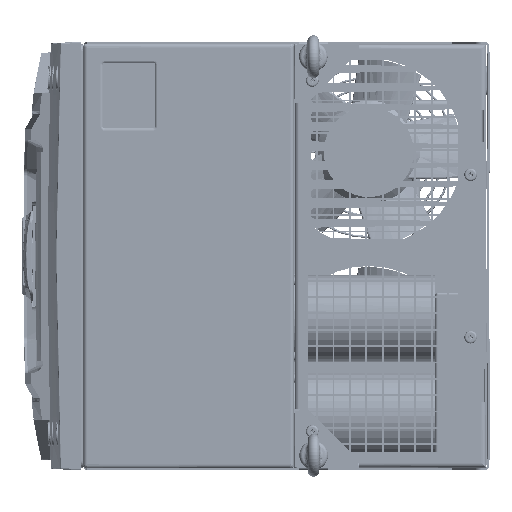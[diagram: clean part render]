
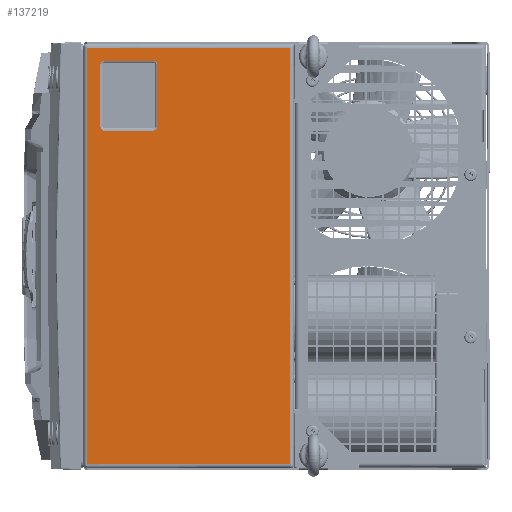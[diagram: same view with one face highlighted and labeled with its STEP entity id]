
A CAD part, left-side view. The second image highlights one B-rep face of the part: STEP entity #137219.
In plain terms, the highlighted planar face has unit normal (-1, 0, 0).
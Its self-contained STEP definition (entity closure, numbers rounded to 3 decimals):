
#2947 = VERTEX_POINT ( 'NONE', #296068 ) ;
#3064 = LINE ( 'NONE', #24934, #151939 ) ;
#9158 = LINE ( 'NONE', #240673, #128663 ) ;
#9941 = VERTEX_POINT ( 'NONE', #292766 ) ;
#12964 = CARTESIAN_POINT ( 'NONE',  ( -608.5, 258.25, 150.328 ) ) ;
#17301 = CARTESIAN_POINT ( 'NONE',  ( -608.5, 258.25, 99.65 ) ) ;
#20261 = VERTEX_POINT ( 'NONE', #120246 ) ;
#24934 = CARTESIAN_POINT ( 'NONE',  ( -608.5, 378.845, 150.328 ) ) ;
#27826 = LINE ( 'NONE', #76470, #124999 ) ;
#28002 = EDGE_CURVE ( 'NONE', #9941, #2947, #216739, .T. ) ;
#28331 = DIRECTION ( 'NONE',  ( 0., 0., -1. ) ) ;
#28524 = EDGE_CURVE ( 'NONE', #129971, #180075, #129938, .T. ) ;
#29263 = EDGE_LOOP ( 'NONE', ( #302595, #306475, #79255, #211138, #289145, #191219, #193009, #150192 ) ) ;
#36163 = EDGE_CURVE ( 'NONE', #240084, #214450, #154960, .T. ) ;
#37826 = AXIS2_PLACEMENT_3D ( 'NONE', #98666, #155596, #75101 ) ;
#39041 = CARTESIAN_POINT ( 'NONE',  ( -608.5, 298.928, 99.65 ) ) ;
#43439 = CARTESIAN_POINT ( 'NONE',  ( -608.5, 153., -160.4 ) ) ;
#46309 = CARTESIAN_POINT ( 'NONE',  ( -608.5, 295.75, 150.328 ) ) ;
#49031 = DIRECTION ( 'NONE',  ( 0., -1., 0. ) ) ;
#51221 = ORIENTED_EDGE ( 'NONE', *, *, #36163, .T. ) ;
#53526 = DIRECTION ( 'NONE',  ( -1., 0., 0. ) ) ;
#62678 = AXIS2_PLACEMENT_3D ( 'NONE', #263263, #238130, #135729 ) ;
#65001 = CARTESIAN_POINT ( 'NONE',  ( -608.5, 298.928, 147.15 ) ) ;
#65190 = CIRCLE ( 'NONE', #252711, 3.178 ) ;
#67626 = DIRECTION ( 'NONE',  ( -1., 0., 0. ) ) ;
#71820 = DIRECTION ( 'NONE',  ( 0., 0., 1. ) ) ;
#73653 = EDGE_CURVE ( 'NONE', #288677, #20261, #27826, .T. ) ;
#75101 = DIRECTION ( 'NONE',  ( 0., 0., -1. ) ) ;
#76470 = CARTESIAN_POINT ( 'NONE',  ( -608.5, 255.072, 147.15 ) ) ;
#79255 = ORIENTED_EDGE ( 'NONE', *, *, #158141, .F. ) ;
#79484 = EDGE_CURVE ( 'NONE', #316180, #174258, #244095, .T. ) ;
#83729 = FACE_OUTER_BOUND ( 'NONE', #259941, .T. ) ;
#88639 = LINE ( 'NONE', #135627, #330514 ) ;
#92051 = VERTEX_POINT ( 'NONE', #245527 ) ;
#97877 = AXIS2_PLACEMENT_3D ( 'NONE', #312836, #237371, #239036 ) ;
#98666 = CARTESIAN_POINT ( 'NONE',  ( -608.5, 258.25, 147.15 ) ) ;
#101680 = DIRECTION ( 'NONE',  ( 0., 0., 1. ) ) ;
#105419 = CARTESIAN_POINT ( 'NONE',  ( -608.5, 255.072, 99.65 ) ) ;
#115697 = EDGE_CURVE ( 'NONE', #9941, #240084, #9158, .T. ) ;
#120246 = CARTESIAN_POINT ( 'NONE',  ( -608.5, 255.072, 147.15 ) ) ;
#124999 = VECTOR ( 'NONE', #101680, 1000. ) ;
#127204 = DIRECTION ( 'NONE',  ( 0., 1., 0. ) ) ;
#128663 = VECTOR ( 'NONE', #183696, 1000. ) ;
#129938 = CIRCLE ( 'NONE', #97877, 3.178 ) ;
#129971 = VERTEX_POINT ( 'NONE', #46309 ) ;
#131118 = LINE ( 'NONE', #305636, #298974 ) ;
#135627 = CARTESIAN_POINT ( 'NONE',  ( -608.5, 298.928, 63.4 ) ) ;
#135729 = DIRECTION ( 'NONE',  ( 0., -1., 0. ) ) ;
#136414 = DIRECTION ( 'NONE',  ( 0., -1., 0. ) ) ;
#137219 = ADVANCED_FACE ( 'NONE', ( #211290, #83729 ), #207920, .T. ) ;
#142850 = DIRECTION ( 'NONE',  ( 0., -1., 0. ) ) ;
#150192 = ORIENTED_EDGE ( 'NONE', *, *, #306533, .F. ) ;
#151939 = VECTOR ( 'NONE', #127204, 1000. ) ;
#154960 = LINE ( 'NONE', #159927, #169978 ) ;
#155596 = DIRECTION ( 'NONE',  ( -1., 0., 0. ) ) ;
#158141 = EDGE_CURVE ( 'NONE', #174258, #92051, #131118, .T. ) ;
#159927 = CARTESIAN_POINT ( 'NONE',  ( -608.5, 309.693, -160.4 ) ) ;
#160912 = CIRCLE ( 'NONE', #37826, 3.178 ) ;
#168022 = CARTESIAN_POINT ( 'NONE',  ( -608.5, 309.693, 160.4 ) ) ;
#169978 = VECTOR ( 'NONE', #136414, 1000. ) ;
#172381 = EDGE_CURVE ( 'NONE', #92051, #288677, #65190, .T. ) ;
#174258 = VERTEX_POINT ( 'NONE', #316315 ) ;
#180075 = VERTEX_POINT ( 'NONE', #65001 ) ;
#183696 = DIRECTION ( 'NONE',  ( 0., 0., -1. ) ) ;
#190444 = AXIS2_PLACEMENT_3D ( 'NONE', #236334, #53526, #28331 ) ;
#191219 = ORIENTED_EDGE ( 'NONE', *, *, #28524, .F. ) ;
#191813 = ORIENTED_EDGE ( 'NONE', *, *, #115697, .T. ) ;
#193009 = ORIENTED_EDGE ( 'NONE', *, *, #265440, .F. ) ;
#199300 = LINE ( 'NONE', #301629, #269344 ) ;
#203376 = ORIENTED_EDGE ( 'NONE', *, *, #28002, .F. ) ;
#207920 = PLANE ( 'NONE',  #62678 ) ;
#211138 = ORIENTED_EDGE ( 'NONE', *, *, #79484, .F. ) ;
#211290 = FACE_BOUND ( 'NONE', #29263, .T. ) ;
#214450 = VERTEX_POINT ( 'NONE', #43439 ) ;
#216739 = LINE ( 'NONE', #168022, #263662 ) ;
#236334 = CARTESIAN_POINT ( 'NONE',  ( -608.5, 295.75, 99.65 ) ) ;
#237371 = DIRECTION ( 'NONE',  ( -1., 0., 0. ) ) ;
#238130 = DIRECTION ( 'NONE',  ( -1., 0., 0. ) ) ;
#239036 = DIRECTION ( 'NONE',  ( 0., 0., -1. ) ) ;
#240084 = VERTEX_POINT ( 'NONE', #270711 ) ;
#240673 = CARTESIAN_POINT ( 'NONE',  ( -608.5, 309., 0. ) ) ;
#242604 = ORIENTED_EDGE ( 'NONE', *, *, #292153, .T. ) ;
#244095 = CIRCLE ( 'NONE', #190444, 3.178 ) ;
#245527 = CARTESIAN_POINT ( 'NONE',  ( -608.5, 258.25, 96.472 ) ) ;
#252711 = AXIS2_PLACEMENT_3D ( 'NONE', #17301, #67626, #299073 ) ;
#259941 = EDGE_LOOP ( 'NONE', ( #191813, #51221, #242604, #203376 ) ) ;
#263263 = CARTESIAN_POINT ( 'NONE',  ( -608.5, 312., -322.408 ) ) ;
#263662 = VECTOR ( 'NONE', #142850, 1000. ) ;
#265440 = EDGE_CURVE ( 'NONE', #272685, #129971, #3064, .T. ) ;
#269344 = VECTOR ( 'NONE', #71820, 1000. ) ;
#270711 = CARTESIAN_POINT ( 'NONE',  ( -608.5, 309., -160.4 ) ) ;
#272685 = VERTEX_POINT ( 'NONE', #12964 ) ;
#288677 = VERTEX_POINT ( 'NONE', #105419 ) ;
#289145 = ORIENTED_EDGE ( 'NONE', *, *, #326199, .F. ) ;
#292153 = EDGE_CURVE ( 'NONE', #214450, #2947, #199300, .T. ) ;
#292766 = CARTESIAN_POINT ( 'NONE',  ( -608.5, 309., 160.4 ) ) ;
#293262 = DIRECTION ( 'NONE',  ( 0., 0., -1. ) ) ;
#296068 = CARTESIAN_POINT ( 'NONE',  ( -608.5, 153., 160.4 ) ) ;
#298974 = VECTOR ( 'NONE', #49031, 1000. ) ;
#299073 = DIRECTION ( 'NONE',  ( 0., 0., -1. ) ) ;
#301629 = CARTESIAN_POINT ( 'NONE',  ( -608.5, 153., -322.408 ) ) ;
#302595 = ORIENTED_EDGE ( 'NONE', *, *, #73653, .F. ) ;
#305636 = CARTESIAN_POINT ( 'NONE',  ( -608.5, 258.25, 96.472 ) ) ;
#306475 = ORIENTED_EDGE ( 'NONE', *, *, #172381, .F. ) ;
#306533 = EDGE_CURVE ( 'NONE', #20261, #272685, #160912, .T. ) ;
#312836 = CARTESIAN_POINT ( 'NONE',  ( -608.5, 295.75, 147.15 ) ) ;
#316180 = VERTEX_POINT ( 'NONE', #39041 ) ;
#316315 = CARTESIAN_POINT ( 'NONE',  ( -608.5, 295.75, 96.472 ) ) ;
#326199 = EDGE_CURVE ( 'NONE', #180075, #316180, #88639, .T. ) ;
#330514 = VECTOR ( 'NONE', #293262, 1000. ) ;
